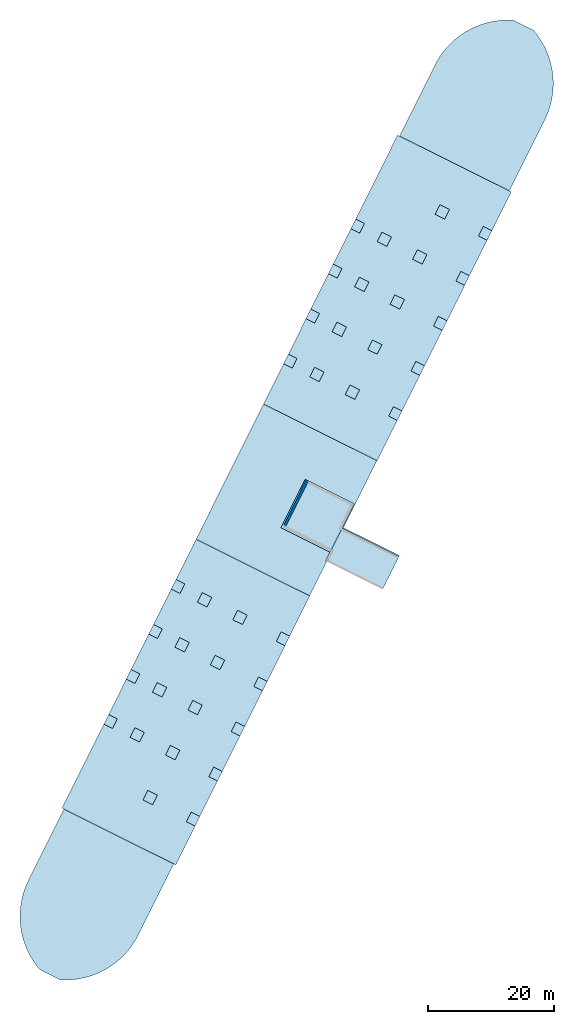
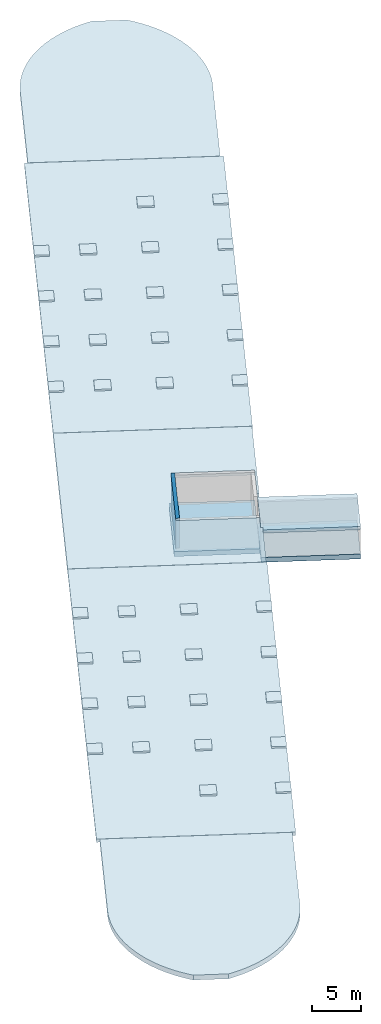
# One storey, part 1 of 2: 44 footings, 1 wall.
"""IFC2X3 building model written with IfcOpenShell, lengths in metres."""

from ifc_helpers import new_model, entity, si_unit, converted_unit, derived_unit, direction, frame, frame_2d, origin, origin_2d_with_axis, place, context, subcontext, project, spatial, polyline, circle_curve, parameter, trimmed, segment, composite_curve, rectangle, outline, extrude, material, layer, layer_set, layer_usage, type_object, element, save


model = new_model("IFC2X3")

# Units and contexts
model_context = context("Model", 3, precision=1e-05, world=origin(), true_north=direction((0.894925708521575, 0.446215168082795)))
context_of_model = context(None, 3, precision=1e-05, world=origin(), true_north=direction((0.894925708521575, 0.446215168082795)))
body_context = subcontext(model_context, "Body", "Model", "MODEL_VIEW")
ifc_project = project(units=[si_unit("LENGTHUNIT", "METRE"), si_unit("AREAUNIT", "SQUARE_METRE"), si_unit("VOLUMEUNIT", "CUBIC_METRE"), converted_unit("PLANEANGLEUNIT", "DEGREE", entity("IfcRatioMeasure", 0.0174532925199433), si_unit("PLANEANGLEUNIT", "RADIAN"), dimensions=[0, 0, 0, 0, 0, 0, 0]), si_unit("MASSUNIT", "GRAM", prefix="KILO"), si_unit("TIMEUNIT", "SECOND"), si_unit("FREQUENCYUNIT", "HERTZ"), si_unit("THERMODYNAMICTEMPERATUREUNIT", "DEGREE_CELSIUS"), derived_unit("THERMALTRANSMITTANCEUNIT", [(si_unit("MASSUNIT", "GRAM", prefix="KILO"), 1), (si_unit("THERMODYNAMICTEMPERATUREUNIT", "KELVIN"), -1), (si_unit("TIMEUNIT", "SECOND"), -3)]), derived_unit("VOLUMETRICFLOWRATEUNIT", [(si_unit("LENGTHUNIT", "METRE"), 3), (si_unit("TIMEUNIT", "SECOND"), -1)]), si_unit("ELECTRICCURRENTUNIT", "AMPERE"), si_unit("ELECTRICVOLTAGEUNIT", "VOLT"), si_unit("POWERUNIT", "WATT"), si_unit("FORCEUNIT", "NEWTON", prefix="KILO"), si_unit("ILLUMINANCEUNIT", "LUX"), si_unit("LUMINOUSFLUXUNIT", "LUMEN"), si_unit("LUMINOUSINTENSITYUNIT", "CANDELA"), si_unit("PRESSUREUNIT", "PASCAL")], contexts=[model_context, context_of_model])

# Site, building, storey
site_placement = place(None, frame((218.228324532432, 584.720189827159, 0.0), z_axis=(0.0, 0.0, 1.0), x_axis=(0.446215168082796, 0.894925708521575, 0.0)))
site = spatial("IfcSite", under=ifc_project, at=site_placement, Name="Default", CompositionType="ELEMENT")
building_placement = place(site_placement, origin())
building = spatial("IfcBuilding", under=site, at=building_placement, CompositionType="ELEMENT")
storey_placement = place(building_placement, frame((0.0, 0.0, -0.4)))
storey = spatial("IfcBuildingStorey", under=building, at=storey_placement, Name="SF_STR_0100_XY- Fondazioni (-0,40)", CompositionType="ELEMENT", Elevation=-0.4)

# Footings
ifc_material_1 = material(Name="Calcestruzzo - Calcestruzzo gettato in opera")
ifc_layer_1 = layer(ifc_material_1, 0.6)
ifc_layer_set_1 = layer_set([ifc_layer_1], Name="Platea:Platea 60 cm")
ifc_layer_usage_1 = layer_usage(ifc_layer_set_1, "AXIS3", "POSITIVE", 0.0)
footing_1_placement = place(storey_placement, origin())
element("IfcFooting", 1, at=footing_1_placement, inside=storey, material=ifc_layer_usage_1, Name="Platea:Platea 60 cm", ObjectType="Platea:Platea 60 cm", PredefinedType="NOTDEFINED", context=body_context, shape_type="SweptSolid", body=[
    extrude(outline(composite_curve([segment(polyline([(-1.78934450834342, -12.2217835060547), (1.78627927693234, -12.2217835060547)]), True, "CONTINUOUS"), segment(trimmed(circle_curve(frame_2d((-3.20724690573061, -0.267068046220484), x_axis=(0.385430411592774, -0.922736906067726)), 12.9557140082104), [parameter(0.0)], [parameter(67.3295366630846)], True, "PARAMETER"), True, "CONTINUOUS"), segment(polyline([(9.74846710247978, -0.267068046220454), (9.7484671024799, 12.3182164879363)]), True, "CONTINUOUS"), segment(polyline([(9.7484671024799, 12.3182164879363), (-9.74693448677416, 12.3182164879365)]), True, "CONTINUOUS"), segment(polyline([(-9.74693448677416, 12.3182164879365), (-9.74693448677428, 0.0742020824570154)]), True, "CONTINUOUS"), segment(trimmed(circle_curve(frame_2d((3.19846710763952, -0.270874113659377), x_axis=(-0.999644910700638, 0.0266468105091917)), 12.9500000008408), [parameter(0.0)], [parameter(68.8733066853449)], True, "PARAMETER"), True, "CONTINUOUS")], self_intersect=False)), frame((-72.9288824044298, -3.54954610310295, 0.0), z_axis=(0.0, 0.0, -1.0), x_axis=(0.0, 1.0, 0.0)), (0.0, 0.0, 1.0), 0.6),
])
ifc_layer_2 = layer(ifc_material_1, 0.4)
ifc_layer_set_2 = layer_set([ifc_layer_2], Name="Platea:Platea 40 cm")
ifc_layer_usage_2 = layer_usage(ifc_layer_set_2, "AXIS3", "POSITIVE", 0.0)
footing_2_placement = place(storey_placement, origin())
element("IfcFooting", 2, at=footing_2_placement, inside=storey, material=ifc_layer_usage_2, Name="Platea:Platea 40 cm", ObjectType="Platea:Platea 40 cm", PredefinedType="NOTDEFINED", context=body_context, shape_type="SweptSolid", body=[
    extrude(rectangle(XDim=20.2002225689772, YDim=47.7299916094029, at=origin_2d_with_axis()), frame((-36.7256734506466, -3.55096771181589, 0.0), z_axis=(0.0, 0.0, -1.0), x_axis=(0.0, 1.0, 0.0)), (0.0, 0.0, 1.0), 0.4),
])
ifc_layer_usage_3 = layer_usage(ifc_layer_set_1, "AXIS3", "POSITIVE", 0.0)
footing_3_placement = place(storey_placement, origin())
element("IfcFooting", 3, at=footing_3_placement, inside=storey, material=ifc_layer_usage_3, Name="Platea:Platea 60 cm", ObjectType="Platea:Platea 60 cm", PredefinedType="NOTDEFINED", context=body_context, shape_type="SweptSolid", body=[
    extrude(outline(polyline([(-4.87500674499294, -11.0399990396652), (15.2751048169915, -11.0399990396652), (15.2751048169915, 12.9400009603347), (-4.87500674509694, 12.9400009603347), (-4.87500674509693, 1.05000100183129), (-4.6750067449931, 1.05000100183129), (-4.6750067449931, 5.20000485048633), (3.82492216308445, 5.20000485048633), (3.82492216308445, -3.20000876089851), (-4.67500674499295, -3.20000876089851), (-4.67500674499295, -4.94999901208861), (-4.87500674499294, -4.94999901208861), (-4.87500674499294, -11.0399990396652)])), frame((-1.80066687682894, -8.72596124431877, 0.0), z_axis=(0.0, 0.0, -1.0), x_axis=(0.0, 1.0, 0.0)), (0.0, 0.0, 1.0), 0.6),
])
ifc_layer_usage_4 = layer_usage(ifc_layer_set_2, "AXIS3", "POSITIVE", 0.0)
footing_4_placement = place(storey_placement, origin())
element("IfcFooting", 4, at=footing_4_placement, inside=storey, material=ifc_layer_usage_4, Name="Platea:Platea 40 cm", ObjectType="Platea:Platea 40 cm", PredefinedType="NOTDEFINED", context=body_context, shape_type="SweptSolid", body=[
    extrude(rectangle(XDim=20.2002225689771, YDim=47.7301054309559, at=origin_2d_with_axis()), frame((35.0243867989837, -3.5509677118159, 0.0), z_axis=(0.0, 0.0, -1.0), x_axis=(0.0, 1.0, 0.0)), (0.0, 0.0, 1.0), 0.4),
])
ifc_layer_usage_5 = layer_usage(ifc_layer_set_1, "AXIS3", "POSITIVE", 0.0)
footing_5_placement = place(storey_placement, origin())
element("IfcFooting", 5, at=footing_5_placement, inside=storey, material=ifc_layer_usage_5, Name="Platea:Platea 60 cm", ObjectType="Platea:Platea 60 cm", PredefinedType="NOTDEFINED", context=body_context, shape_type="SweptSolid", body=[
    extrude(outline(composite_curve([segment(polyline([(-9.75001760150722, -12.3184475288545), (9.75000865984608, -12.3184475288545)]), True, "CONTINUOUS"), segment(polyline([(9.75000865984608, -12.3184475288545), (9.75000865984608, 0.266837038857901)]), True, "CONTINUOUS"), segment(trimmed(circle_curve(frame_2d((-3.1999907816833, 0.270643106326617), x_axis=(0.999999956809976, -0.000293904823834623)), 12.9500000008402), [parameter(0.0)], [parameter(67.3632156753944)], True, "PARAMETER"), True, "CONTINUOUS"), segment(polyline([(1.7878208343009, 12.2215524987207), (-1.78780295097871, 12.2215524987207)]), True, "CONTINUOUS"), segment(trimmed(circle_curve(frame_2d((3.20393794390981, 0.263266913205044), x_axis=(-0.385215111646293, 0.922826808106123)), 12.9583205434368), [parameter(0.0)], [parameter(68.8300982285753)], True, "PARAMETER"), True, "CONTINUOUS"), segment(polyline([(-9.75001760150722, -0.0730469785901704), (-9.75001760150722, -12.3184475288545)]), True, "CONTINUOUS")], self_intersect=False)), frame((71.2277815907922, -3.55108766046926, 0.0), z_axis=(0.0, 0.0, -1.0), x_axis=(0.0, 1.0, 0.0)), (0.0, 0.0, 1.0), 0.6),
])
ifc_layer_3 = layer(ifc_material_1, 0.2)
ifc_layer_set_3 = layer_set([ifc_layer_3], Name="Platea:Platea 20 cm")
ifc_layer_usage_6 = layer_usage(ifc_layer_set_3, "AXIS3", "POSITIVE", 0.0)
footing_6_placement = place(storey_placement, origin())
element("IfcFooting", 6, at=footing_6_placement, inside=storey, material=ifc_layer_usage_6, Name="Platea:Platea 20 cm", ObjectType="Platea:Platea 20 cm", PredefinedType="NOTDEFINED", context=body_context, shape_type="SweptSolid", body=[
    extrude(rectangle(XDim=1.69999999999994, YDim=1.69999999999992, at=frame_2d((0.0, 4.32986979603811e-15), x_axis=(1.0, 0.0))), frame((-44.8506659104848, 1.04892100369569, 0.2), z_axis=(0.0, 0.0, -1.0), x_axis=(0.0, 1.0, 0.0)), (0.0, 0.0, 1.0), 0.2),
])
ifc_layer_usage_7 = layer_usage(ifc_layer_set_3, "AXIS3", "POSITIVE", 0.0)
footing_7_placement = place(storey_placement, origin())
element("IfcFooting", 7, at=footing_7_placement, inside=storey, material=ifc_layer_usage_7, Name="Platea:Platea 20 cm", ObjectType="Platea:Platea 20 cm", PredefinedType="NOTDEFINED", context=body_context, shape_type="SweptSolid", body=[
    extrude(rectangle(XDim=1.69999999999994, YDim=1.69999999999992, at=frame_2d((0.0, 4.32986979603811e-15), x_axis=(1.0, 0.0))), frame((-44.8506659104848, -5.25107955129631, 0.2), z_axis=(0.0, 0.0, -1.0), x_axis=(0.0, 1.0, 0.0)), (0.0, 0.0, 1.0), 0.2),
])
ifc_layer_usage_8 = layer_usage(ifc_layer_set_3, "AXIS3", "POSITIVE", 0.0)
footing_8_placement = place(storey_placement, origin())
element("IfcFooting", 8, at=footing_8_placement, inside=storey, material=ifc_layer_usage_8, Name="Platea:Platea 20 cm", ObjectType="Platea:Platea 20 cm", PredefinedType="NOTDEFINED", context=body_context, shape_type="SweptSolid", body=[
    extrude(rectangle(XDim=1.69999999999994, YDim=1.69999999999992, at=frame_2d((0.0, 4.32986979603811e-15), x_axis=(1.0, 0.0))), frame((-52.8506659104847, -5.25107955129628, 0.2), z_axis=(0.0, 0.0, -1.0), x_axis=(0.0, 1.0, 0.0)), (0.0, 0.0, 1.0), 0.2),
])
ifc_layer_usage_9 = layer_usage(ifc_layer_set_3, "AXIS3", "POSITIVE", 0.0)
footing_9_placement = place(storey_placement, origin())
element("IfcFooting", 9, at=footing_9_placement, inside=storey, material=ifc_layer_usage_9, Name="Platea:Platea 20 cm", ObjectType="Platea:Platea 20 cm", PredefinedType="NOTDEFINED", context=body_context, shape_type="SweptSolid", body=[
    extrude(rectangle(XDim=1.69999999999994, YDim=1.69999999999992, at=origin_2d_with_axis()), frame((-36.8506659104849, 1.04892100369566, 0.2), z_axis=(0.0, 0.0, -1.0), x_axis=(0.0, 1.0, 0.0)), (0.0, 0.0, 1.0), 0.2),
])
ifc_layer_usage_10 = layer_usage(ifc_layer_set_3, "AXIS3", "POSITIVE", 0.0)
footing_10_placement = place(storey_placement, origin())
element("IfcFooting", 10, at=footing_10_placement, inside=storey, material=ifc_layer_usage_10, Name="Platea:Platea 20 cm", ObjectType="Platea:Platea 20 cm", PredefinedType="NOTDEFINED", context=body_context, shape_type="SweptSolid", body=[
    extrude(rectangle(XDim=1.69999999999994, YDim=1.69999999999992, at=frame_2d((0.0, -4.32986979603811e-15), x_axis=(1.0, 0.0))), frame((-36.8506659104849, -5.25107955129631, 0.2), z_axis=(0.0, 0.0, -1.0), x_axis=(0.0, 1.0, 0.0)), (0.0, 0.0, 1.0), 0.2),
])
ifc_layer_usage_11 = layer_usage(ifc_layer_set_3, "AXIS3", "POSITIVE", 0.0)
footing_11_placement = place(storey_placement, origin())
element("IfcFooting", 11, at=footing_11_placement, inside=storey, material=ifc_layer_usage_11, Name="Platea:Platea 20 cm", ObjectType="Platea:Platea 20 cm", PredefinedType="NOTDEFINED", context=body_context, shape_type="SweptSolid", body=[
    extrude(rectangle(XDim=1.69999999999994, YDim=1.69999999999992, at=origin_2d_with_axis()), frame((-28.850665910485, -5.25107955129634, 0.2), z_axis=(0.0, 0.0, -1.0), x_axis=(0.0, 1.0, 0.0)), (0.0, 0.0, 1.0), 0.2),
])
ifc_layer_usage_12 = layer_usage(ifc_layer_set_3, "AXIS3", "POSITIVE", 0.0)
footing_12_placement = place(storey_placement, origin())
element("IfcFooting", 12, at=footing_12_placement, inside=storey, material=ifc_layer_usage_12, Name="Platea:Platea 20 cm", ObjectType="Platea:Platea 20 cm", PredefinedType="NOTDEFINED", context=body_context, shape_type="SweptSolid", body=[
    extrude(rectangle(XDim=1.69999999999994, YDim=1.69999999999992, at=frame_2d((0.0, 4.32986979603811e-15), x_axis=(1.0, 0.0))), frame((-28.850665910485, 1.04892100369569, 0.2), z_axis=(0.0, 0.0, -1.0), x_axis=(0.0, 1.0, 0.0)), (0.0, 0.0, 1.0), 0.2),
])
ifc_layer_usage_13 = layer_usage(ifc_layer_set_3, "AXIS3", "POSITIVE", 0.0)
footing_13_placement = place(storey_placement, origin())
element("IfcFooting", 13, at=footing_13_placement, inside=storey, material=ifc_layer_usage_13, Name="Platea:Platea 20 cm", ObjectType="Platea:Platea 20 cm", PredefinedType="NOTDEFINED", context=body_context, shape_type="SweptSolid", body=[
    extrude(rectangle(XDim=1.69999999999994, YDim=1.69999999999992, at=origin_2d_with_axis()), frame((-20.8506659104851, 1.04892100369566, 0.2), z_axis=(0.0, 0.0, -1.0), x_axis=(0.0, 1.0, 0.0)), (0.0, 0.0, 1.0), 0.2),
])
ifc_layer_usage_14 = layer_usage(ifc_layer_set_3, "AXIS3", "POSITIVE", 0.0)
footing_14_placement = place(storey_placement, origin())
element("IfcFooting", 14, at=footing_14_placement, inside=storey, material=ifc_layer_usage_14, Name="Platea:Platea 20 cm", ObjectType="Platea:Platea 20 cm", PredefinedType="NOTDEFINED", context=body_context, shape_type="SweptSolid", body=[
    extrude(rectangle(XDim=1.69999999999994, YDim=1.69999999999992, at=origin_2d_with_axis()), frame((-20.8506659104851, -5.25107955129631, 0.2), z_axis=(0.0, 0.0, -1.0), x_axis=(0.0, 1.0, 0.0)), (0.0, 0.0, 1.0), 0.2),
])
ifc_layer_usage_15 = layer_usage(ifc_layer_set_3, "AXIS3", "POSITIVE", 0.0)
footing_15_placement = place(storey_placement, origin())
element("IfcFooting", 15, at=footing_15_placement, inside=storey, material=ifc_layer_usage_15, Name="Platea:Platea 20 cm", ObjectType="Platea:Platea 20 cm", PredefinedType="NOTDEFINED", context=body_context, shape_type="SweptSolid", body=[
    extrude(rectangle(XDim=1.55000000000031, YDim=1.69999999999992, at=origin_2d_with_axis()), frame((-20.8506659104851, -12.8760789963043, 0.2), z_axis=(0.0, 0.0, -1.0), x_axis=(0.0, 1.0, 0.0)), (0.0, 0.0, 1.0), 0.2),
])
ifc_layer_usage_16 = layer_usage(ifc_layer_set_3, "AXIS3", "POSITIVE", 0.0)
footing_16_placement = place(storey_placement, origin())
element("IfcFooting", 16, at=footing_16_placement, inside=storey, material=ifc_layer_usage_16, Name="Platea:Platea 20 cm", ObjectType="Platea:Platea 20 cm", PredefinedType="NOTDEFINED", context=body_context, shape_type="SweptSolid", body=[
    extrude(rectangle(XDim=1.55000000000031, YDim=1.69999999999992, at=origin_2d_with_axis()), frame((-28.8506659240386, -12.8760789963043, 0.2), z_axis=(0.0, 0.0, -1.0), x_axis=(0.0, 1.0, 0.0)), (0.0, 0.0, 1.0), 0.2),
])
ifc_layer_usage_17 = layer_usage(ifc_layer_set_3, "AXIS3", "POSITIVE", 0.0)
footing_17_placement = place(storey_placement, origin())
element("IfcFooting", 17, at=footing_17_placement, inside=storey, material=ifc_layer_usage_17, Name="Platea:Platea 20 cm", ObjectType="Platea:Platea 20 cm", PredefinedType="NOTDEFINED", context=body_context, shape_type="SweptSolid", body=[
    extrude(rectangle(XDim=1.55000000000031, YDim=1.69999999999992, at=origin_2d_with_axis()), frame((-36.8506659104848, -12.8760789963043, 0.2), z_axis=(0.0, 0.0, -1.0), x_axis=(0.0, 1.0, 0.0)), (0.0, 0.0, 1.0), 0.2),
])
ifc_layer_usage_18 = layer_usage(ifc_layer_set_3, "AXIS3", "POSITIVE", 0.0)
footing_18_placement = place(storey_placement, origin())
element("IfcFooting", 18, at=footing_18_placement, inside=storey, material=ifc_layer_usage_18, Name="Platea:Platea 20 cm", ObjectType="Platea:Platea 20 cm", PredefinedType="NOTDEFINED", context=body_context, shape_type="SweptSolid", body=[
    extrude(rectangle(XDim=1.55000000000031, YDim=1.69999999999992, at=frame_2d((0.0, -4.32986979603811e-15), x_axis=(1.0, 0.0))), frame((-44.8506659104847, -12.8760789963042, 0.2), z_axis=(0.0, 0.0, -1.0), x_axis=(0.0, 1.0, 0.0)), (0.0, 0.0, 1.0), 0.2),
])
ifc_layer_usage_19 = layer_usage(ifc_layer_set_3, "AXIS3", "POSITIVE", 0.0)
footing_19_placement = place(storey_placement, origin())
element("IfcFooting", 19, at=footing_19_placement, inside=storey, material=ifc_layer_usage_19, Name="Platea:Platea 20 cm", ObjectType="Platea:Platea 20 cm", PredefinedType="NOTDEFINED", context=body_context, shape_type="SweptSolid", body=[
    extrude(rectangle(XDim=1.55000000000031, YDim=1.69999999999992, at=frame_2d((0.0, -4.32986979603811e-15), x_axis=(1.0, 0.0))), frame((-52.8506659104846, -12.8760789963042, 0.2), z_axis=(0.0, 0.0, -1.0), x_axis=(0.0, 1.0, 0.0)), (0.0, 0.0, 1.0), 0.2),
])
ifc_layer_usage_20 = layer_usage(ifc_layer_set_3, "AXIS3", "POSITIVE", 0.0)
footing_20_placement = place(storey_placement, origin())
element("IfcFooting", 20, at=footing_20_placement, inside=storey, material=ifc_layer_usage_20, Name="Platea:Platea 20 cm", ObjectType="Platea:Platea 20 cm", PredefinedType="NOTDEFINED", context=body_context, shape_type="SweptSolid", body=[
    extrude(rectangle(XDim=1.55000000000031, YDim=1.69999999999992, at=origin_2d_with_axis()), frame((-20.8506659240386, 5.77414357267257, 0.2), z_axis=(0.0, 0.0, -1.0), x_axis=(0.0, 1.0, 0.0)), (0.0, 0.0, 1.0), 0.2),
])
ifc_layer_usage_21 = layer_usage(ifc_layer_set_3, "AXIS3", "POSITIVE", 0.0)
footing_21_placement = place(storey_placement, origin())
element("IfcFooting", 21, at=footing_21_placement, inside=storey, material=ifc_layer_usage_21, Name="Platea:Platea 20 cm", ObjectType="Platea:Platea 20 cm", PredefinedType="NOTDEFINED", context=body_context, shape_type="SweptSolid", body=[
    extrude(rectangle(XDim=1.55000000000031, YDim=1.69999999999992, at=origin_2d_with_axis()), frame((-28.8506659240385, 5.7741435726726, 0.2), z_axis=(0.0, 0.0, -1.0), x_axis=(0.0, 1.0, 0.0)), (0.0, 0.0, 1.0), 0.2),
])
ifc_layer_usage_22 = layer_usage(ifc_layer_set_3, "AXIS3", "POSITIVE", 0.0)
footing_22_placement = place(storey_placement, origin())
element("IfcFooting", 22, at=footing_22_placement, inside=storey, material=ifc_layer_usage_22, Name="Platea:Platea 20 cm", ObjectType="Platea:Platea 20 cm", PredefinedType="NOTDEFINED", context=body_context, shape_type="SweptSolid", body=[
    extrude(rectangle(XDim=1.55000000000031, YDim=1.69999999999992, at=origin_2d_with_axis()), frame((-36.8506659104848, 5.77414357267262, 0.2), z_axis=(0.0, 0.0, -1.0), x_axis=(0.0, 1.0, 0.0)), (0.0, 0.0, 1.0), 0.2),
])
ifc_layer_usage_23 = layer_usage(ifc_layer_set_3, "AXIS3", "POSITIVE", 0.0)
footing_23_placement = place(storey_placement, origin())
element("IfcFooting", 23, at=footing_23_placement, inside=storey, material=ifc_layer_usage_23, Name="Platea:Platea 20 cm", ObjectType="Platea:Platea 20 cm", PredefinedType="NOTDEFINED", context=body_context, shape_type="SweptSolid", body=[
    extrude(rectangle(XDim=1.55000000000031, YDim=1.69999999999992, at=frame_2d((0.0, 4.32986979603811e-15), x_axis=(1.0, 0.0))), frame((-44.8506659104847, 5.77414357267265, 0.2), z_axis=(0.0, 0.0, -1.0), x_axis=(0.0, 1.0, 0.0)), (0.0, 0.0, 1.0), 0.2),
])
ifc_layer_usage_24 = layer_usage(ifc_layer_set_3, "AXIS3", "POSITIVE", 0.0)
footing_24_placement = place(storey_placement, origin())
element("IfcFooting", 24, at=footing_24_placement, inside=storey, material=ifc_layer_usage_24, Name="Platea:Platea 20 cm", ObjectType="Platea:Platea 20 cm", PredefinedType="NOTDEFINED", context=body_context, shape_type="SweptSolid", body=[
    extrude(rectangle(XDim=1.69999999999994, YDim=1.69999999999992, at=origin_2d_with_axis()), frame((19.1493340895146, 1.04892100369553, 0.2), z_axis=(0.0, 0.0, -1.0), x_axis=(0.0, 1.0, 0.0)), (0.0, 0.0, 1.0), 0.2),
])
ifc_layer_usage_25 = layer_usage(ifc_layer_set_3, "AXIS3", "POSITIVE", 0.0)
footing_25_placement = place(storey_placement, origin())
element("IfcFooting", 25, at=footing_25_placement, inside=storey, material=ifc_layer_usage_25, Name="Platea:Platea 20 cm", ObjectType="Platea:Platea 20 cm", PredefinedType="NOTDEFINED", context=body_context, shape_type="SweptSolid", body=[
    extrude(rectangle(XDim=1.69999999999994, YDim=1.69999999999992, at=origin_2d_with_axis()), frame((19.1493340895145, -5.25107899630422, 0.2), z_axis=(0.0, 0.0, -1.0), x_axis=(0.0, 1.0, 0.0)), (0.0, 0.0, 1.0), 0.2),
])
ifc_layer_usage_26 = layer_usage(ifc_layer_set_3, "AXIS3", "POSITIVE", 0.0)
footing_26_placement = place(storey_placement, origin())
element("IfcFooting", 26, at=footing_26_placement, inside=storey, material=ifc_layer_usage_26, Name="Platea:Platea 20 cm", ObjectType="Platea:Platea 20 cm", PredefinedType="NOTDEFINED", context=body_context, shape_type="SweptSolid", body=[
    extrude(rectangle(XDim=1.69999999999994, YDim=1.69999999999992, at=frame_2d((0.0, -4.32986979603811e-15), x_axis=(1.0, 0.0))), frame((27.1493340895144, -5.25107899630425, 0.2), z_axis=(0.0, 0.0, -1.0), x_axis=(0.0, 1.0, 0.0)), (0.0, 0.0, 1.0), 0.2),
])
ifc_layer_usage_27 = layer_usage(ifc_layer_set_3, "AXIS3", "POSITIVE", 0.0)
footing_27_placement = place(storey_placement, origin())
element("IfcFooting", 27, at=footing_27_placement, inside=storey, material=ifc_layer_usage_27, Name="Platea:Platea 20 cm", ObjectType="Platea:Platea 20 cm", PredefinedType="NOTDEFINED", context=body_context, shape_type="SweptSolid", body=[
    extrude(rectangle(XDim=1.69999999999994, YDim=1.69999999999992, at=origin_2d_with_axis()), frame((27.1493340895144, 1.04892100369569, 0.2), z_axis=(0.0, 0.0, -1.0), x_axis=(0.0, 1.0, 0.0)), (0.0, 0.0, 1.0), 0.2),
])
ifc_layer_usage_28 = layer_usage(ifc_layer_set_3, "AXIS3", "POSITIVE", 0.0)
footing_28_placement = place(storey_placement, origin())
element("IfcFooting", 28, at=footing_28_placement, inside=storey, material=ifc_layer_usage_28, Name="Platea:Platea 20 cm", ObjectType="Platea:Platea 20 cm", PredefinedType="NOTDEFINED", context=body_context, shape_type="SweptSolid", body=[
    extrude(rectangle(XDim=1.69999999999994, YDim=1.69999999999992, at=origin_2d_with_axis()), frame((35.1493340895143, 1.04892100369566, 0.2), z_axis=(0.0, 0.0, -1.0), x_axis=(0.0, 1.0, 0.0)), (0.0, 0.0, 1.0), 0.2),
])
ifc_layer_usage_29 = layer_usage(ifc_layer_set_3, "AXIS3", "POSITIVE", 0.0)
footing_29_placement = place(storey_placement, origin())
element("IfcFooting", 29, at=footing_29_placement, inside=storey, material=ifc_layer_usage_29, Name="Platea:Platea 20 cm", ObjectType="Platea:Platea 20 cm", PredefinedType="NOTDEFINED", context=body_context, shape_type="SweptSolid", body=[
    extrude(rectangle(XDim=1.69999999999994, YDim=1.69999999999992, at=origin_2d_with_axis()), frame((35.1493340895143, -5.25107899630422, 0.2), z_axis=(0.0, 0.0, -1.0), x_axis=(0.0, 1.0, 0.0)), (0.0, 0.0, 1.0), 0.2),
])
ifc_layer_usage_30 = layer_usage(ifc_layer_set_3, "AXIS3", "POSITIVE", 0.0)
footing_30_placement = place(storey_placement, origin())
element("IfcFooting", 30, at=footing_30_placement, inside=storey, material=ifc_layer_usage_30, Name="Platea:Platea 20 cm", ObjectType="Platea:Platea 20 cm", PredefinedType="NOTDEFINED", context=body_context, shape_type="SweptSolid", body=[
    extrude(rectangle(XDim=1.69999999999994, YDim=1.69999999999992, at=frame_2d((0.0, 4.32986979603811e-15), x_axis=(1.0, 0.0))), frame((43.1493340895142, -5.25107899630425, 0.2), z_axis=(0.0, 0.0, -1.0), x_axis=(0.0, 1.0, 0.0)), (0.0, 0.0, 1.0), 0.2),
])
ifc_layer_usage_31 = layer_usage(ifc_layer_set_3, "AXIS3", "POSITIVE", 0.0)
footing_31_placement = place(storey_placement, origin())
element("IfcFooting", 31, at=footing_31_placement, inside=storey, material=ifc_layer_usage_31, Name="Platea:Platea 20 cm", ObjectType="Platea:Platea 20 cm", PredefinedType="NOTDEFINED", context=body_context, shape_type="SweptSolid", body=[
    extrude(rectangle(XDim=1.69999999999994, YDim=1.69999999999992, at=frame_2d((0.0, 4.32986979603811e-15), x_axis=(1.0, 0.0))), frame((51.1493340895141, -5.25107899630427, 0.2), z_axis=(0.0, 0.0, -1.0), x_axis=(0.0, 1.0, 0.0)), (0.0, 0.0, 1.0), 0.2),
])
ifc_layer_usage_32 = layer_usage(ifc_layer_set_3, "AXIS3", "POSITIVE", 0.0)
footing_32_placement = place(storey_placement, origin())
element("IfcFooting", 32, at=footing_32_placement, inside=storey, material=ifc_layer_usage_32, Name="Platea:Platea 20 cm", ObjectType="Platea:Platea 20 cm", PredefinedType="NOTDEFINED", context=body_context, shape_type="SweptSolid", body=[
    extrude(rectangle(XDim=1.69999999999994, YDim=1.69999999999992, at=frame_2d((0.0, 4.32986979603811e-15), x_axis=(1.0, 0.0))), frame((43.1493340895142, 1.04892100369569, 0.2), z_axis=(0.0, 0.0, -1.0), x_axis=(0.0, 1.0, 0.0)), (0.0, 0.0, 1.0), 0.2),
])
ifc_layer_usage_33 = layer_usage(ifc_layer_set_3, "AXIS3", "POSITIVE", 0.0)
footing_33_placement = place(storey_placement, origin())
element("IfcFooting", 33, at=footing_33_placement, inside=storey, material=ifc_layer_usage_33, Name="Platea:Platea 20 cm", ObjectType="Platea:Platea 20 cm", PredefinedType="NOTDEFINED", context=body_context, shape_type="SweptSolid", body=[
    extrude(rectangle(XDim=1.55000000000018, YDim=1.69999999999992, at=origin_2d_with_axis()), frame((19.1493340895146, 5.77414357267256, 0.2), z_axis=(0.0, 0.0, -1.0), x_axis=(0.0, 1.0, 0.0)), (0.0, 0.0, 1.0), 0.2),
])
ifc_layer_usage_34 = layer_usage(ifc_layer_set_3, "AXIS3", "POSITIVE", 0.0)
footing_34_placement = place(storey_placement, origin())
element("IfcFooting", 34, at=footing_34_placement, inside=storey, material=ifc_layer_usage_34, Name="Platea:Platea 20 cm", ObjectType="Platea:Platea 20 cm", PredefinedType="NOTDEFINED", context=body_context, shape_type="SweptSolid", body=[
    extrude(rectangle(XDim=1.55000000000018, YDim=1.69999999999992, at=origin_2d_with_axis()), frame((27.1493340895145, 5.77414357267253, 0.2), z_axis=(0.0, 0.0, -1.0), x_axis=(0.0, 1.0, 0.0)), (0.0, 0.0, 1.0), 0.2),
])
ifc_layer_usage_35 = layer_usage(ifc_layer_set_3, "AXIS3", "POSITIVE", 0.0)
footing_35_placement = place(storey_placement, origin())
element("IfcFooting", 35, at=footing_35_placement, inside=storey, material=ifc_layer_usage_35, Name="Platea:Platea 20 cm", ObjectType="Platea:Platea 20 cm", PredefinedType="NOTDEFINED", context=body_context, shape_type="SweptSolid", body=[
    extrude(rectangle(XDim=1.55000000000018, YDim=1.69999999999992, at=origin_2d_with_axis()), frame((35.149334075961, 5.7741435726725, 0.2), z_axis=(0.0, 0.0, -1.0), x_axis=(0.0, 1.0, 0.0)), (0.0, 0.0, 1.0), 0.2),
])
ifc_layer_usage_36 = layer_usage(ifc_layer_set_3, "AXIS3", "POSITIVE", 0.0)
footing_36_placement = place(storey_placement, origin())
element("IfcFooting", 36, at=footing_36_placement, inside=storey, material=ifc_layer_usage_36, Name="Platea:Platea 20 cm", ObjectType="Platea:Platea 20 cm", PredefinedType="NOTDEFINED", context=body_context, shape_type="SweptSolid", body=[
    extrude(rectangle(XDim=1.55000000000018, YDim=1.69999999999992, at=frame_2d((0.0, 4.32986979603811e-15), x_axis=(1.0, 0.0))), frame((43.1493340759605, 5.77414357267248, 0.2), z_axis=(0.0, 0.0, -1.0), x_axis=(0.0, 1.0, 0.0)), (0.0, 0.0, 1.0), 0.2),
])
ifc_layer_usage_37 = layer_usage(ifc_layer_set_3, "AXIS3", "POSITIVE", 0.0)
footing_37_placement = place(storey_placement, origin())
element("IfcFooting", 37, at=footing_37_placement, inside=storey, material=ifc_layer_usage_37, Name="Platea:Platea 20 cm", ObjectType="Platea:Platea 20 cm", PredefinedType="NOTDEFINED", context=body_context, shape_type="SweptSolid", body=[
    extrude(rectangle(XDim=1.55000000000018, YDim=1.69999999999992, at=frame_2d((0.0, 4.32986979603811e-15), x_axis=(1.0, 0.0))), frame((43.1493340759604, -12.8760789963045, 0.2), z_axis=(0.0, 0.0, -1.0), x_axis=(0.0, 1.0, 0.0)), (0.0, 0.0, 1.0), 0.2),
])
ifc_layer_usage_38 = layer_usage(ifc_layer_set_3, "AXIS3", "POSITIVE", 0.0)
footing_38_placement = place(storey_placement, origin())
element("IfcFooting", 38, at=footing_38_placement, inside=storey, material=ifc_layer_usage_38, Name="Platea:Platea 20 cm", ObjectType="Platea:Platea 20 cm", PredefinedType="NOTDEFINED", context=body_context, shape_type="SweptSolid", body=[
    extrude(rectangle(XDim=1.55000000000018, YDim=1.69999999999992, at=frame_2d((0.0, 4.32986979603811e-15), x_axis=(1.0, 0.0))), frame((51.1493340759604, -12.8760789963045, 0.2), z_axis=(0.0, 0.0, -1.0), x_axis=(0.0, 1.0, 0.0)), (0.0, 0.0, 1.0), 0.2),
])
ifc_layer_usage_39 = layer_usage(ifc_layer_set_3, "AXIS3", "POSITIVE", 0.0)
footing_39_placement = place(storey_placement, origin())
element("IfcFooting", 39, at=footing_39_placement, inside=storey, material=ifc_layer_usage_39, Name="Platea:Platea 20 cm", ObjectType="Platea:Platea 20 cm", PredefinedType="NOTDEFINED", context=body_context, shape_type="SweptSolid", body=[
    extrude(rectangle(XDim=1.55000000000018, YDim=1.69999999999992, at=origin_2d_with_axis()), frame((35.1493340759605, -12.8760789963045, 0.2), z_axis=(0.0, 0.0, -1.0), x_axis=(0.0, 1.0, 0.0)), (0.0, 0.0, 1.0), 0.2),
])
ifc_layer_usage_40 = layer_usage(ifc_layer_set_3, "AXIS3", "POSITIVE", 0.0)
footing_40_placement = place(storey_placement, origin())
element("IfcFooting", 40, at=footing_40_placement, inside=storey, material=ifc_layer_usage_40, Name="Platea:Platea 20 cm", ObjectType="Platea:Platea 20 cm", PredefinedType="NOTDEFINED", context=body_context, shape_type="SweptSolid", body=[
    extrude(rectangle(XDim=1.55000000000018, YDim=1.69999999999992, at=frame_2d((0.0, -4.32986979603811e-15), x_axis=(1.0, 0.0))), frame((27.1493340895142, -12.8760789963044, 0.2), z_axis=(0.0, 0.0, -1.0), x_axis=(0.0, 1.0, 0.0)), (0.0, 0.0, 1.0), 0.2),
])
ifc_layer_usage_41 = layer_usage(ifc_layer_set_3, "AXIS3", "POSITIVE", 0.0)
footing_41_placement = place(storey_placement, origin())
element("IfcFooting", 41, at=footing_41_placement, inside=storey, material=ifc_layer_usage_41, Name="Platea:Platea 20 cm", ObjectType="Platea:Platea 20 cm", PredefinedType="NOTDEFINED", context=body_context, shape_type="SweptSolid", body=[
    extrude(rectangle(XDim=1.55000000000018, YDim=1.69999999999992, at=origin_2d_with_axis()), frame((19.1493340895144, -12.8760789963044, 0.2), z_axis=(0.0, 0.0, -1.0), x_axis=(0.0, 1.0, 0.0)), (0.0, 0.0, 1.0), 0.2),
])
ifc_layer_usage_42 = layer_usage(ifc_layer_set_1, "AXIS3", "POSITIVE", 0.0)
footing_42_placement = place(storey_placement, origin())
element("IfcFooting", 42, at=footing_42_placement, inside=storey, material=ifc_layer_usage_42, Name="Platea:Platea 60 cm", ObjectType="Platea:Platea 60 cm", PredefinedType="NOTDEFINED", context=body_context, shape_type="SweptSolid", body=[
    extrude(outline(polyline([(-4.03599998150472, -3.50000000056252), (6.05400001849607, -3.50000000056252), (6.05400001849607, 2.49999999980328), (-4.03600007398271, 2.49999999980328), (-4.03600007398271, 2.0), (-4.03599998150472, -3.50000000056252)])), frame((-3.25066587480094, -19.4849683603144, -3.7), z_axis=(0.0, 0.0, -1.0), x_axis=(0.0, 1.0, 0.0)), (0.0, 0.0, 1.0), 0.6),
])
ifc_layer_usage_43 = layer_usage(ifc_layer_set_1, "AXIS3", "POSITIVE", 0.0)
footing_43_placement = place(storey_placement, origin())
element("IfcFooting", 43, at=footing_43_placement, inside=storey, material=ifc_layer_usage_43, Name="Platea:Platea 60 cm", ObjectType="Platea:Platea 60 cm", PredefinedType="NOTDEFINED", context=body_context, shape_type="SweptSolid", body=[
    extrude(rectangle(XDim=8.69995710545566, YDim=8.60015995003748, at=origin_2d_with_axis()), frame((-0.900742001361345, -9.05098943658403, -3.7), z_axis=(0.0, 0.0, -1.0), x_axis=(0.0, 1.0, 0.0)), (0.0, 0.0, 1.0), 0.6),
])
ifc_layer_usage_44 = layer_usage(ifc_layer_set_2, "AXIS3", "POSITIVE", 0.0)
footing_44_placement = place(storey_placement, origin())
element("IfcFooting", 44, at=footing_44_placement, inside=storey, material=ifc_layer_usage_44, Name="Platea:Platea 40 cm", ObjectType="Platea:Platea 40 cm", PredefinedType="NOTDEFINED", context=body_context, shape_type="SweptSolid", body=[
    extrude(rectangle(XDim=10.0900000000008, YDim=5.80000002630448, at=frame_2d((-5.32907051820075e-15, -4.44089209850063e-16), x_axis=(1.0, 0.0))), frame((-3.85066588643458, -18.4759683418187, -0.3), z_axis=(0.0, 0.0, -1.0), x_axis=(0.0, 1.0, 0.0)), (0.0, 0.0, 1.0), 0.4),
])

# Wall
ifc_material_2 = material(Name="Default - Calcestruzzo")
ifc_layer_4 = layer(ifc_material_2, 0.4)
ifc_layer_set_4 = layer_set([ifc_layer_4], Name="Muro di base:Setto CA - 40 cm")
ifc_layer_usage_45 = layer_usage(ifc_layer_set_4, "AXIS2", "NEGATIVE", 0.2)
wall_type = type_object("IfcWallType", Name="Muro di base:Setto CA - 40 cm", PredefinedType="STANDARD", material=ifc_layer_set_4)
wall_placement = place(storey_placement, frame((-4.60067563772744, -5.10103908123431, -3.7)))
element("IfcWallStandardCase", 45, at=wall_placement, inside=storey, type_object=wall_type, material=ifc_layer_usage_45, Name="Muro di base:Setto CA - 40 cm", ObjectType="Muro di base:Setto CA - 40 cm", context=body_context, shape_type="SweptSolid", body=[
    extrude(rectangle(XDim=8.0000058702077, YDim=0.4, at=frame_2d((4.00000293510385, 1.2490009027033e-16), x_axis=(-1.0, 0.0))), origin(), (0.0, 0.0, 1.0), 3.7),
])

save(model, "model.ifc")
